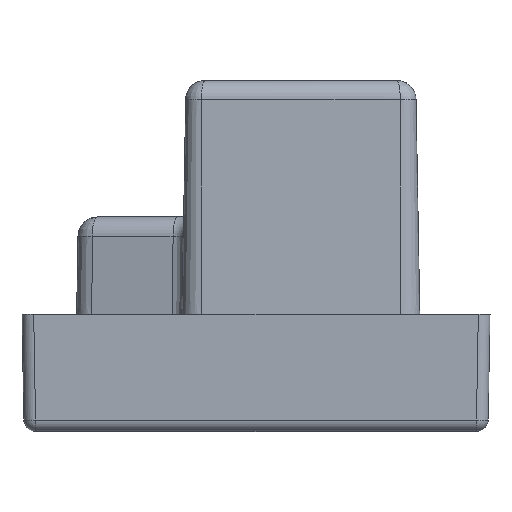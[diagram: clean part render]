
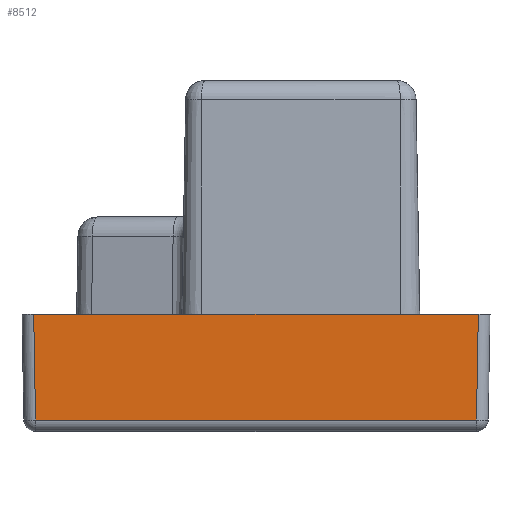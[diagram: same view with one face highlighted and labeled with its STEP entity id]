
A CAD part, left-side view. The second image highlights one B-rep face of the part: STEP entity #8512.
In plain terms, the highlighted planar face has unit normal (-1, 0, -0.018).
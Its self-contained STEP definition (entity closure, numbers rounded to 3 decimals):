
#56 = CARTESIAN_POINT ( 'NONE',  ( -5.5, 11.7, 0. ) ) ;
#242 = EDGE_CURVE ( 'NONE', #5171, #9581, #1088, .T. ) ;
#1088 = LINE ( 'NONE', #6427, #1461 ) ;
#1344 = ORIENTED_EDGE ( 'NONE', *, *, #5356, .T. ) ;
#1461 = VECTOR ( 'NONE', #11776, 1000. ) ;
#1513 = VERTEX_POINT ( 'NONE', #56 ) ;
#1770 = VECTOR ( 'NONE', #3984, 1000. ) ;
#2485 = ORIENTED_EDGE ( 'NONE', *, *, #8832, .F. ) ;
#3528 = VECTOR ( 'NONE', #6179, 1000. ) ;
#3984 = DIRECTION ( 'NONE',  ( 0.017, -0.017, -1. ) ) ;
#4218 = CARTESIAN_POINT ( 'NONE',  ( -5.5, 12., 0. ) ) ;
#4610 = EDGE_CURVE ( 'NONE', #1513, #12983, #9109, .T. ) ;
#4921 = LINE ( 'NONE', #9014, #6599 ) ;
#5171 = VERTEX_POINT ( 'NONE', #8554 ) ;
#5356 = EDGE_CURVE ( 'NONE', #12983, #5171, #4921, .T. ) ;
#5545 = ORIENTED_EDGE ( 'NONE', *, *, #242, .T. ) ;
#5935 = CARTESIAN_POINT ( 'NONE',  ( -5.5, 0.3, 0. ) ) ;
#6179 = DIRECTION ( 'NONE',  ( 0., -1., 0. ) ) ;
#6427 = CARTESIAN_POINT ( 'NONE',  ( -5.496, 0.304, -0.204 ) ) ;
#6599 = VECTOR ( 'NONE', #12378, 1000. ) ;
#7096 = CARTESIAN_POINT ( 'NONE',  ( -5.453, 11.653, -2.705 ) ) ;
#7287 = PLANE ( 'NONE',  #10745 ) ;
#8389 = DIRECTION ( 'NONE',  ( -1., 0., -0.017 ) ) ;
#8512 = ADVANCED_FACE ( 'NONE', ( #12496 ), #7287, .T. ) ;
#8554 = CARTESIAN_POINT ( 'NONE',  ( -5.453, 0.347, -2.705 ) ) ;
#8832 = EDGE_CURVE ( 'NONE', #1513, #9581, #10570, .T. ) ;
#9014 = CARTESIAN_POINT ( 'NONE',  ( -5.453, 0.052, -2.705 ) ) ;
#9109 = LINE ( 'NONE', #13352, #1770 ) ;
#9581 = VERTEX_POINT ( 'NONE', #5935 ) ;
#10570 = LINE ( 'NONE', #12616, #3528 ) ;
#10660 = EDGE_LOOP ( 'NONE', ( #1344, #5545, #2485, #10778 ) ) ;
#10745 = AXIS2_PLACEMENT_3D ( 'NONE', #4218, #8389, #10784 ) ;
#10778 = ORIENTED_EDGE ( 'NONE', *, *, #4610, .T. ) ;
#10784 = DIRECTION ( 'NONE',  ( -0.017, 0., 1. ) ) ;
#11776 = DIRECTION ( 'NONE',  ( -0.017, -0.017, 1. ) ) ;
#12378 = DIRECTION ( 'NONE',  ( 0., -1., 0. ) ) ;
#12496 = FACE_OUTER_BOUND ( 'NONE', #10660, .T. ) ;
#12616 = CARTESIAN_POINT ( 'NONE',  ( -5.5, 12., 0. ) ) ;
#12983 = VERTEX_POINT ( 'NONE', #7096 ) ;
#13352 = CARTESIAN_POINT ( 'NONE',  ( -5.5, 11.7, 0.005 ) ) ;
